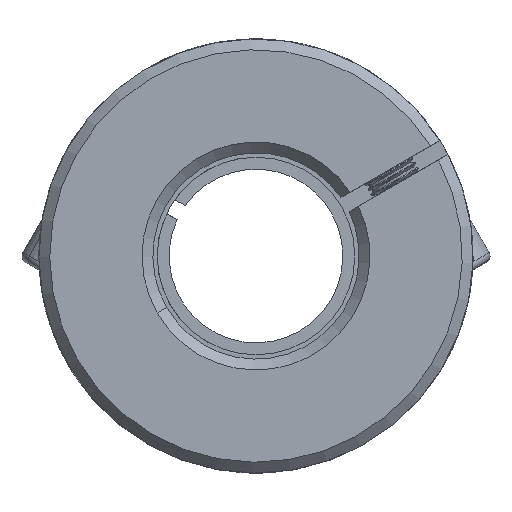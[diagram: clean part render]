
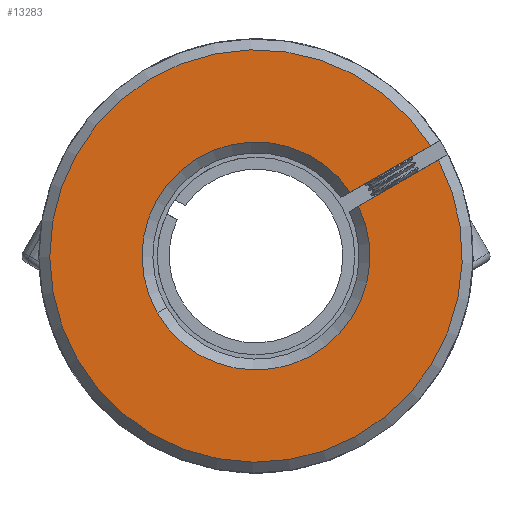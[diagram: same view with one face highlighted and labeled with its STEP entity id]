
A CAD part, front view. The second image highlights one B-rep face of the part: STEP entity #13283.
In plain terms, the highlighted planar face has unit normal (0, -1, 0).
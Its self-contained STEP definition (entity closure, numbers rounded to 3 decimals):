
#745 = DIRECTION ( 'NONE',  ( 0., 1., 0. ) ) ;
#1497 = CARTESIAN_POINT ( 'NONE',  ( 7.246, -31.239, 45.889 ) ) ;
#1664 = CIRCLE ( 'NONE', #7151, 10.5 ) ;
#1868 = DIRECTION ( 'NONE',  ( 0.5, 0., -0.866 ) ) ;
#1915 = DIRECTION ( 'NONE',  ( 0.5, 0., -0.866 ) ) ;
#2485 = EDGE_LOOP ( 'NONE', ( #12824, #5415, #5601, #5076, #13342 ) ) ;
#2561 = CARTESIAN_POINT ( 'NONE',  ( 6.378, -31.239, 45.387 ) ) ;
#2592 = VECTOR ( 'NONE', #5542, 1000. ) ;
#2783 = CARTESIAN_POINT ( 'NONE',  ( 15.367, -31.239, 48.848 ) ) ;
#2885 = CARTESIAN_POINT ( 'NONE',  ( -1.447, -31.239, 40. ) ) ;
#3020 = EDGE_CURVE ( 'NONE', #4297, #10605, #9306, .T. ) ;
#4004 = DIRECTION ( 'NONE',  ( 0., -1., 0. ) ) ;
#4297 = VERTEX_POINT ( 'NONE', #11619 ) ;
#4709 = CIRCLE ( 'NONE', #11949, 10.5 ) ;
#5076 = ORIENTED_EDGE ( 'NONE', *, *, #3020, .F. ) ;
#5116 = DIRECTION ( 'NONE',  ( 0.5, 0., -0.866 ) ) ;
#5415 = ORIENTED_EDGE ( 'NONE', *, *, #13473, .T. ) ;
#5542 = DIRECTION ( 'NONE',  ( 0.866, 0., 0.5 ) ) ;
#5601 = ORIENTED_EDGE ( 'NONE', *, *, #11762, .T. ) ;
#5684 = FACE_OUTER_BOUND ( 'NONE', #2485, .T. ) ;
#5946 = DIRECTION ( 'NONE',  ( 0.5, 0., -0.866 ) ) ;
#5968 = CARTESIAN_POINT ( 'NONE',  ( -10.539, -31.239, 34.747 ) ) ;
#6141 = CARTESIAN_POINT ( 'NONE',  ( -1.447, -31.239, 40. ) ) ;
#6213 = CARTESIAN_POINT ( 'NONE',  ( -1.447, -31.239, 40. ) ) ;
#6741 = VERTEX_POINT ( 'NONE', #13598 ) ;
#7151 = AXIS2_PLACEMENT_3D ( 'NONE', #6213, #9460, #5946 ) ;
#7188 = PLANE ( 'NONE',  #11791 ) ;
#7791 = AXIS2_PLACEMENT_3D ( 'NONE', #6141, #4004, #5116 ) ;
#8480 = EDGE_CURVE ( 'NONE', #6741, #11656, #8829, .T. ) ;
#8829 = LINE ( 'NONE', #8840, #2592 ) ;
#8840 = CARTESIAN_POINT ( 'NONE',  ( 7.128, -31.239, 44.088 ) ) ;
#9270 = DIRECTION ( 'NONE',  ( 0., 1., 0. ) ) ;
#9306 = LINE ( 'NONE', #2561, #12631 ) ;
#9460 = DIRECTION ( 'NONE',  ( 0., 1., 0. ) ) ;
#10118 = DIRECTION ( 'NONE',  ( -0.866, 0., -0.5 ) ) ;
#10290 = EDGE_CURVE ( 'NONE', #4297, #11656, #10814, .T. ) ;
#10605 = VERTEX_POINT ( 'NONE', #1497 ) ;
#10814 = CIRCLE ( 'NONE', #7791, 19. ) ;
#11548 = CARTESIAN_POINT ( 'NONE',  ( 52.98, -31.239, 45.743 ) ) ;
#11619 = CARTESIAN_POINT ( 'NONE',  ( 14.616, -31.239, 50.147 ) ) ;
#11656 = VERTEX_POINT ( 'NONE', #2783 ) ;
#11762 = EDGE_CURVE ( 'NONE', #13164, #10605, #4709, .T. ) ;
#11791 = AXIS2_PLACEMENT_3D ( 'NONE', #11548, #9270, #1915 ) ;
#11949 = AXIS2_PLACEMENT_3D ( 'NONE', #2885, #745, #1868 ) ;
#12631 = VECTOR ( 'NONE', #10118, 1000. ) ;
#12824 = ORIENTED_EDGE ( 'NONE', *, *, #8480, .F. ) ;
#13164 = VERTEX_POINT ( 'NONE', #5968 ) ;
#13283 = ADVANCED_FACE ( 'NONE', ( #5684 ), #7188, .F. ) ;
#13342 = ORIENTED_EDGE ( 'NONE', *, *, #10290, .T. ) ;
#13473 = EDGE_CURVE ( 'NONE', #6741, #13164, #1664, .T. ) ;
#13598 = CARTESIAN_POINT ( 'NONE',  ( 7.997, -31.239, 44.59 ) ) ;
